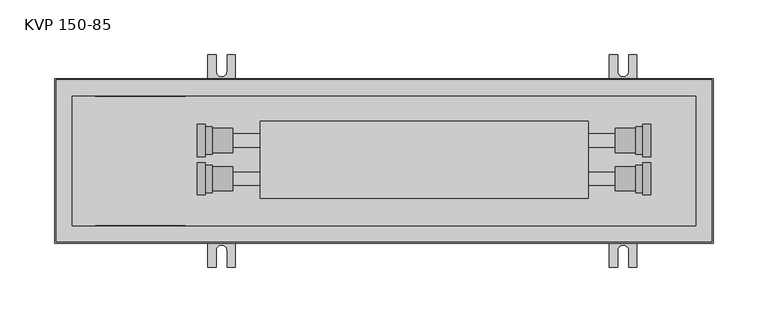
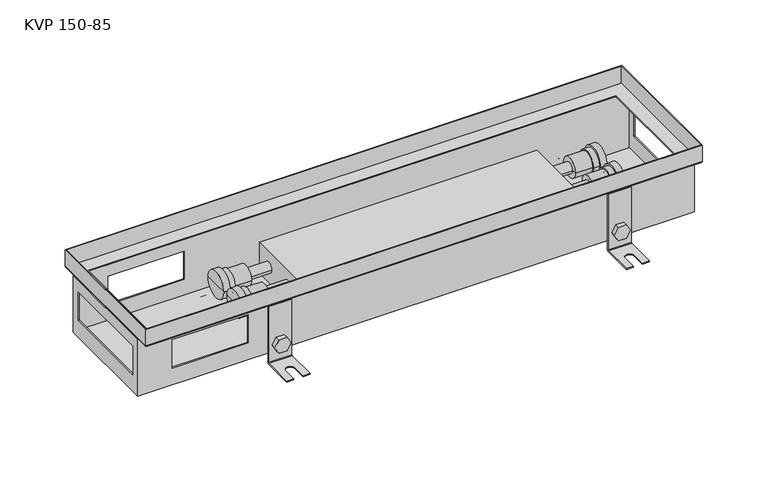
"""IFC4 building model written with IfcOpenShell, lengths in millimetres: proxy geometry, TECHNO_Конвектор встраиваемый_Power_KVP_150_65-85-105 : KVP 150-85."""

from ifc_helpers import new_model, si_unit, point, frame, frame_2d, origin, place, context, project, spatial, polyline, circle_curve, ellipse_curve, trimmed, segment, composite_curve, outline, extrude, faceted_brep, source, transform, mapped, element, save
from ifc_brep_helpers import plane_surface, cylinder_surface, revolved_surface, advanced_brep


def kvp_150_85_47bef37a(model_context):
    return source(origin(), model_context, "Body", "SolidModel", [
        extrude(outline(composite_curve([segment(trimmed(circle_curve(frame_2d((-75.5, 518.0)), 7.5), [point((-75.5, 510.5))], [point((-75.5, 525.5))], False, "CARTESIAN"), True, "CONTINUOUS"), segment(trimmed(circle_curve(frame_2d((-75.5, 518.0)), 7.5), [point((-75.5, 525.5))], [point((-75.5, 510.5))], False, "CARTESIAN"), True, "CONTINUOUS")], self_intersect=False)), frame((0.0, 60.2, 0.0), z_axis=(0.0, 1.0, 0.0), x_axis=(0.0, 0.0, 1.0)), (0.0, 0.0, 1.0), 1.5),
        extrude(outline(polyline([(-75.5, 509.339746), (-83.0, 513.669873), (-83.0, 522.330127), (-75.5, 526.660254), (-68.0, 522.330127), (-68.0, 513.669873), (-75.5, 509.339746)])), frame((0.0, 62.9, 0.0), z_axis=(0.0, 1.0, 0.0), x_axis=(0.0, 0.0, 1.0)), (0.0, 0.0, 1.0), 5.1),
        advanced_brep(
        [(530.5, 62.9, -30.5), (530.5, 61.7, -30.5), (530.5, 61.7, -93.5), (530.5, 63.7, -95.5), (530.5, 96.7, -95.5), (530.5, 96.7, -94.3), (530.5, 63.7, -94.3), (530.5, 62.9, -93.5), (505.5, 62.9, -30.5), (505.5, 62.9, -93.5), (505.5, 63.7, -94.3), (505.5, 96.7, -94.3), (505.5, 96.7, -95.5), (505.5, 63.7, -95.5), (505.5, 61.7, -93.5), (505.5, 61.7, -30.5), (523.0, 96.7, -94.3), (523.0, 81.7, -94.3), (513.0, 81.7, -94.3), (513.0, 96.7, -94.3), (513.0, 96.7, -95.5), (523.0, 96.7, -95.5), (513.0, 81.7, -95.5), (523.0, 81.7, -95.5)],
        [
            (0, 1),
            (1, 2),
            (2, 3, circle_curve(frame((530.5, 63.7, -93.5), z_axis=(1.0, 0.0, 0.0), x_axis=(0.0, 1.0, 0.0)), 2.0)),
            (3, 4),
            (4, 5),
            (5, 6),
            (6, 7, circle_curve(frame((530.5, 63.7, -93.5), z_axis=(-1.0, 0.0, 0.0), x_axis=(0.0, 1.0, 0.0)), 0.8)),
            (7, 0),
            (8, 9),
            (9, 10, circle_curve(frame((505.5, 63.7, -93.5), z_axis=(1.0, 0.0, 0.0), x_axis=(0.0, 1.0, 0.0)), 0.8)),
            (10, 11),
            (11, 12),
            (12, 13),
            (13, 14, circle_curve(frame((505.5, 63.7, -93.5), z_axis=(-1.0, 0.0, 0.0), x_axis=(0.0, 1.0, 0.0)), 2.0)),
            (14, 15),
            (15, 8),
            (7, 9),
            (8, 0),
            (6, 10),
            (5, 16),
            (16, 17),
            (17, 18, circle_curve(frame((518.0, 81.7, -94.3), z_axis=(0.0, 0.0, -1.0), x_axis=(1.0, 0.0, 0.0)), 5.0)),
            (18, 19),
            (19, 11),
            (19, 20),
            (20, 12),
            (4, 21),
            (21, 16),
            (3, 13),
            (20, 22),
            (22, 23, circle_curve(frame((518.0, 81.7, -95.5), z_axis=(0.0, 0.0, 1.0), x_axis=(1.0, 0.0, 0.0)), 5.0)),
            (23, 21),
            (2, 14),
            (1, 15),
            (18, 22),
            (23, 17),
        ],
        [
            plane_surface(frame((530.5, 62.9, -30.5), z_axis=(1.0, 0.0, 0.0), x_axis=(0.0, 0.0, -1.0))),
            plane_surface(frame((505.5, 62.9, -30.5), z_axis=(-1.0, 0.0, 0.0), x_axis=(0.0, 0.0, 1.0))),
            plane_surface(frame((530.5, 62.9, -30.5), z_axis=(0.0, 1.0, 0.0), x_axis=(-1.0, 0.0, 0.0))),
            revolved_surface(polyline([(505.5, 64.5, -93.5), (530.5, 64.5, -93.5)]), (505.5, 63.7, -93.5), (-1.0, 0.0, 0.0)),
            plane_surface(frame((530.5, 63.7, -94.3), z_axis=(0.0, 0.0, 1.0), x_axis=(-1.0, 0.0, 0.0))),
            plane_surface(frame((530.5, 96.7, -94.3), z_axis=(0.0, 1.0, 0.0), x_axis=(-1.0, 0.0, 0.0))),
            plane_surface(frame((530.5, 96.7, -95.5), z_axis=(0.0, 0.0, -1.0), x_axis=(-1.0, 0.0, 0.0))),
            cylinder_surface(frame((505.5, 63.7, -93.5), z_axis=(1.0, 0.0, 0.0), x_axis=(0.0, 1.0, 0.0)), 2.0),
            plane_surface(frame((530.5, 61.7, -93.5), z_axis=(0.0, -1.0, 0.0), x_axis=(-1.0, 0.0, 0.0))),
            plane_surface(frame((530.5, 61.7, -30.5), z_axis=(0.0, 0.0, 1.0), x_axis=(-1.0, 0.0, 0.0))),
            plane_surface(frame((513.0, 81.7, -94.3), z_axis=(1.0, 0.0, 0.0), x_axis=(0.0, 0.0, -1.0))),
            plane_surface(frame((523.0, 96.7, -94.3), z_axis=(-1.0, 0.0, 0.0), x_axis=(0.0, 0.0, -1.0))),
            revolved_surface(polyline([(523.0, 81.7, -94.3), (523.0, 81.7, -95.5)]), (518.0, 81.7, -95.5), (0.0, 0.0, 1.0)),
        ],
        [
            (0, [[1, 2, 3, 4, 5, 6, 7, 8]]),
            (1, [[9, 10, 11, 12, 13, 14, 15, 16]]),
            (2, [[17, -9, 18, -8]]),
            (3, [[19, -10, -17, -7]]),
            (4, [[20, 21, 22, 23, 24, -11, -19, -6]]),
            (5, [[-24, 25, 26, -12]]),
            (5, [[27, 28, -20, -5]]),
            (6, [[29, -13, -26, 30, 31, 32, -27, -4]]),
            (7, [[33, -14, -29, -3]]),
            (8, [[34, -15, -33, -2]]),
            (9, [[-18, -16, -34, -1]]),
            (10, [[-30, -25, -23, 35]]),
            (11, [[-21, -28, -32, 36]]),
            (12, [[-22, -36, -31, -35]]),
        ],
    ),
        extrude(outline(composite_curve([segment(trimmed(circle_curve(frame_2d((-75.5, 518.0)), 7.5), [point((-75.5, 510.5))], [point((-75.5, 525.5))], False, "CARTESIAN"), True, "CONTINUOUS"), segment(trimmed(circle_curve(frame_2d((-75.5, 518.0)), 7.5), [point((-75.5, 525.5))], [point((-75.5, 510.5))], False, "CARTESIAN"), True, "CONTINUOUS")], self_intersect=False)), frame((0.0, -61.7, 0.0), z_axis=(0.0, 1.0, 0.0), x_axis=(0.0, 0.0, 1.0)), (0.0, 0.0, 1.0), 1.5),
        extrude(outline(polyline([(-75.5, 509.339746), (-83.0, 513.669873), (-83.0, 522.330127), (-75.5, 526.660254), (-68.0, 522.330127), (-68.0, 513.669873), (-75.5, 509.339746)])), frame((0.0, -68.0, 0.0), z_axis=(0.0, 1.0, 0.0), x_axis=(0.0, 0.0, 1.0)), (0.0, 0.0, 1.0), 5.1),
        advanced_brep(
        [(530.5, -62.9, -30.5), (530.5, -62.9, -93.5), (530.5, -63.7, -94.3), (530.5, -96.7, -94.3), (530.5, -96.7, -95.5), (530.5, -63.7, -95.5), (530.5, -61.7, -93.5), (530.5, -61.7, -30.5), (505.5, -62.9, -30.5), (505.5, -61.7, -30.5), (505.5, -61.7, -93.5), (505.5, -63.7, -95.5), (505.5, -96.7, -95.5), (505.5, -96.7, -94.3), (505.5, -63.7, -94.3), (505.5, -62.9, -93.5), (513.0, -96.7, -94.3), (513.0, -81.7, -94.3), (523.0, -81.7, -94.3), (523.0, -96.7, -94.3), (523.0, -96.7, -95.5), (513.0, -96.7, -95.5), (523.0, -81.7, -95.5), (513.0, -81.7, -95.5)],
        [
            (0, 1),
            (1, 2, circle_curve(frame((530.5, -63.7, -93.5), z_axis=(-1.0, 0.0, 0.0), x_axis=(0.0, -1.0, 0.0)), 0.8)),
            (2, 3),
            (3, 4),
            (4, 5),
            (5, 6, circle_curve(frame((530.5, -63.7, -93.5), z_axis=(1.0, 0.0, 0.0), x_axis=(0.0, -1.0, 0.0)), 2.0)),
            (6, 7),
            (7, 0),
            (8, 9),
            (9, 10),
            (10, 11, circle_curve(frame((505.5, -63.7, -93.5), z_axis=(-1.0, 0.0, 0.0), x_axis=(0.0, -1.0, 0.0)), 2.0)),
            (11, 12),
            (12, 13),
            (13, 14),
            (14, 15, circle_curve(frame((505.5, -63.7, -93.5), z_axis=(1.0, 0.0, 0.0), x_axis=(0.0, -1.0, 0.0)), 0.8)),
            (15, 8),
            (0, 8),
            (15, 1),
            (14, 2),
            (13, 16),
            (16, 17),
            (17, 18, circle_curve(frame((518.0, -81.7, -94.3), z_axis=(0.0, 0.0, -1.0), x_axis=(1.0, 0.0, 0.0)), 5.0)),
            (18, 19),
            (19, 3),
            (19, 20),
            (20, 4),
            (12, 21),
            (21, 16),
            (20, 22),
            (22, 23, circle_curve(frame((518.0, -81.7, -95.5), z_axis=(0.0, 0.0, 1.0), x_axis=(1.0, 0.0, 0.0)), 5.0)),
            (23, 21),
            (11, 5),
            (10, 6),
            (9, 7),
            (23, 17),
            (18, 22),
        ],
        [
            plane_surface(frame((530.5, -62.9, -30.5), z_axis=(1.0, 0.0, 0.0), x_axis=(0.0, 0.0, -1.0))),
            plane_surface(frame((505.5, -62.9, -30.5), z_axis=(-1.0, 0.0, 0.0), x_axis=(0.0, 0.0, 1.0))),
            plane_surface(frame((530.5, -62.9, -30.5), z_axis=(0.0, -1.0, 0.0), x_axis=(-1.0, 0.0, 0.0))),
            revolved_surface(polyline([(505.5, -64.5, -93.5), (530.5, -64.5, -93.5)]), (505.5, -63.7, -93.5), (-1.0, 0.0, 0.0)),
            plane_surface(frame((530.5, -63.7, -94.3), z_axis=(0.0, 0.0, 1.0), x_axis=(-1.0, 0.0, 0.0))),
            plane_surface(frame((530.5, -96.7, -94.3), z_axis=(0.0, -1.0, 0.0), x_axis=(-1.0, 0.0, 0.0))),
            plane_surface(frame((530.5, -96.7, -95.5), z_axis=(0.0, 0.0, -1.0), x_axis=(-1.0, 0.0, 0.0))),
            cylinder_surface(frame((505.5, -63.7, -93.5), z_axis=(1.0, 0.0, 0.0), x_axis=(0.0, -1.0, 0.0)), 2.0),
            plane_surface(frame((530.5, -61.7, -93.5), z_axis=(0.0, 1.0, 0.0), x_axis=(-1.0, 0.0, 0.0))),
            plane_surface(frame((530.5, -61.7, -30.5), z_axis=(0.0, 0.0, 1.0), x_axis=(-1.0, 0.0, 0.0))),
            plane_surface(frame((513.0, -81.7, -94.3), z_axis=(1.0, 0.0, 0.0), x_axis=(0.0, 0.0, -1.0))),
            plane_surface(frame((523.0, -96.7, -94.3), z_axis=(-1.0, 0.0, 0.0), x_axis=(0.0, 0.0, -1.0))),
            revolved_surface(polyline([(523.0, -81.7, -94.3), (523.0, -81.7, -95.5)]), (518.0, -81.7, -95.5), (0.0, 0.0, 1.0)),
        ],
        [
            (0, [[1, 2, 3, 4, 5, 6, 7, 8]]),
            (1, [[9, 10, 11, 12, 13, 14, 15, 16]]),
            (2, [[-1, 17, -16, 18]]),
            (3, [[-2, -18, -15, 19]]),
            (4, [[-3, -19, -14, 20, 21, 22, 23, 24]]),
            (5, [[-4, -24, 25, 26]]),
            (5, [[-13, 27, 28, -20]]),
            (6, [[-5, -26, 29, 30, 31, -27, -12, 32]]),
            (7, [[-6, -32, -11, 33]]),
            (8, [[-7, -33, -10, 34]]),
            (9, [[-8, -34, -9, -17]]),
            (10, [[35, -21, -28, -31]]),
            (11, [[36, -29, -25, -23]]),
            (12, [[-35, -30, -36, -22]]),
        ],
    ),
        extrude(outline(composite_curve([segment(trimmed(circle_curve(frame_2d((-75.5, 152.0)), 7.5), [point((-75.5, 144.5))], [point((-75.5, 159.5))], False, "CARTESIAN"), True, "CONTINUOUS"), segment(trimmed(circle_curve(frame_2d((-75.5, 152.0)), 7.5), [point((-75.5, 159.5))], [point((-75.5, 144.5))], False, "CARTESIAN"), True, "CONTINUOUS")], self_intersect=False)), frame((0.0, 60.2, 0.0), z_axis=(0.0, 1.0, 0.0), x_axis=(0.0, 0.0, 1.0)), (0.0, 0.0, 1.0), 1.5),
        extrude(outline(polyline([(-75.5, 143.339746), (-83.0, 147.669873), (-83.0, 156.330127), (-75.5, 160.660254), (-68.0, 156.330127), (-68.0, 147.669873), (-75.5, 143.339746)])), frame((0.0, 62.9, 0.0), z_axis=(0.0, 1.0, 0.0), x_axis=(0.0, 0.0, 1.0)), (0.0, 0.0, 1.0), 5.1),
        advanced_brep(
        [(164.5, 62.9, -30.5), (164.5, 61.7, -30.5), (164.5, 61.7, -93.5), (164.5, 63.7, -95.5), (164.5, 96.7, -95.5), (164.5, 96.7, -94.3), (164.5, 63.7, -94.3), (164.5, 62.9, -93.5), (139.5, 62.9, -30.5), (139.5, 62.9, -93.5), (139.5, 63.7, -94.3), (139.5, 96.7, -94.3), (139.5, 96.7, -95.5), (139.5, 63.7, -95.5), (139.5, 61.7, -93.5), (139.5, 61.7, -30.5), (157.0, 96.7, -94.3), (157.0, 81.7, -94.3), (147.0, 81.7, -94.3), (147.0, 96.7, -94.3), (147.0, 96.7, -95.5), (157.0, 96.7, -95.5), (147.0, 81.7, -95.5), (157.0, 81.7, -95.5)],
        [
            (0, 1),
            (1, 2),
            (2, 3, circle_curve(frame((164.5, 63.7, -93.5), z_axis=(1.0, 0.0, 0.0), x_axis=(0.0, 1.0, 0.0)), 2.0)),
            (3, 4),
            (4, 5),
            (5, 6),
            (6, 7, circle_curve(frame((164.5, 63.7, -93.5), z_axis=(-1.0, 0.0, 0.0), x_axis=(0.0, 1.0, 0.0)), 0.8)),
            (7, 0),
            (8, 9),
            (9, 10, circle_curve(frame((139.5, 63.7, -93.5), z_axis=(1.0, 0.0, 0.0), x_axis=(0.0, 1.0, 0.0)), 0.8)),
            (10, 11),
            (11, 12),
            (12, 13),
            (13, 14, circle_curve(frame((139.5, 63.7, -93.5), z_axis=(-1.0, 0.0, 0.0), x_axis=(0.0, 1.0, 0.0)), 2.0)),
            (14, 15),
            (15, 8),
            (7, 9),
            (8, 0),
            (6, 10),
            (5, 16),
            (16, 17),
            (17, 18, circle_curve(frame((152.0, 81.7, -94.3), z_axis=(0.0, 0.0, -1.0), x_axis=(1.0, 0.0, 0.0)), 5.0)),
            (18, 19),
            (19, 11),
            (19, 20),
            (20, 12),
            (4, 21),
            (21, 16),
            (3, 13),
            (20, 22),
            (22, 23, circle_curve(frame((152.0, 81.7, -95.5), z_axis=(0.0, 0.0, 1.0), x_axis=(1.0, 0.0, 0.0)), 5.0)),
            (23, 21),
            (2, 14),
            (1, 15),
            (18, 22),
            (23, 17),
        ],
        [
            plane_surface(frame((164.5, 62.9, -30.5), z_axis=(1.0, 0.0, 0.0), x_axis=(0.0, 0.0, -1.0))),
            plane_surface(frame((139.5, 62.9, -30.5), z_axis=(-1.0, 0.0, 0.0), x_axis=(0.0, 0.0, 1.0))),
            plane_surface(frame((164.5, 62.9, -30.5), z_axis=(0.0, 1.0, 0.0), x_axis=(-1.0, 0.0, 0.0))),
            revolved_surface(polyline([(139.5, 64.5, -93.5), (164.5, 64.5, -93.5)]), (139.5, 63.7, -93.5), (-1.0, 0.0, 0.0)),
            plane_surface(frame((164.5, 63.7, -94.3), z_axis=(0.0, 0.0, 1.0), x_axis=(-1.0, 0.0, 0.0))),
            plane_surface(frame((164.5, 96.7, -94.3), z_axis=(0.0, 1.0, 0.0), x_axis=(-1.0, 0.0, 0.0))),
            plane_surface(frame((164.5, 96.7, -95.5), z_axis=(0.0, 0.0, -1.0), x_axis=(-1.0, 0.0, 0.0))),
            cylinder_surface(frame((139.5, 63.7, -93.5), z_axis=(1.0, 0.0, 0.0), x_axis=(0.0, 1.0, 0.0)), 2.0),
            plane_surface(frame((164.5, 61.7, -93.5), z_axis=(0.0, -1.0, 0.0), x_axis=(-1.0, 0.0, 0.0))),
            plane_surface(frame((164.5, 61.7, -30.5), z_axis=(0.0, 0.0, 1.0), x_axis=(-1.0, 0.0, 0.0))),
            plane_surface(frame((147.0, 81.7, -94.3), z_axis=(1.0, 0.0, 0.0), x_axis=(0.0, 0.0, -1.0))),
            plane_surface(frame((157.0, 96.7, -94.3), z_axis=(-1.0, 0.0, 0.0), x_axis=(0.0, 0.0, -1.0))),
            revolved_surface(polyline([(157.0, 81.7, -94.3), (157.0, 81.7, -95.5)]), (152.0, 81.7, -95.5), (0.0, 0.0, 1.0)),
        ],
        [
            (0, [[1, 2, 3, 4, 5, 6, 7, 8]]),
            (1, [[9, 10, 11, 12, 13, 14, 15, 16]]),
            (2, [[17, -9, 18, -8]]),
            (3, [[19, -10, -17, -7]]),
            (4, [[20, 21, 22, 23, 24, -11, -19, -6]]),
            (5, [[-24, 25, 26, -12]]),
            (5, [[27, 28, -20, -5]]),
            (6, [[29, -13, -26, 30, 31, 32, -27, -4]]),
            (7, [[33, -14, -29, -3]]),
            (8, [[34, -15, -33, -2]]),
            (9, [[-18, -16, -34, -1]]),
            (10, [[-30, -25, -23, 35]]),
            (11, [[-21, -28, -32, 36]]),
            (12, [[-22, -36, -31, -35]]),
        ],
    ),
        extrude(outline(composite_curve([segment(trimmed(circle_curve(frame_2d((-75.5, 152.0)), 7.5), [point((-75.5, 144.5))], [point((-75.5, 159.5))], False, "CARTESIAN"), True, "CONTINUOUS"), segment(trimmed(circle_curve(frame_2d((-75.5, 152.0)), 7.5), [point((-75.5, 159.5))], [point((-75.5, 144.5))], False, "CARTESIAN"), True, "CONTINUOUS")], self_intersect=False)), frame((0.0, -61.7, 0.0), z_axis=(0.0, 1.0, 0.0), x_axis=(0.0, 0.0, 1.0)), (0.0, 0.0, 1.0), 1.5),
        extrude(outline(polyline([(-75.5, 143.339746), (-83.0, 147.669873), (-83.0, 156.330127), (-75.5, 160.660254), (-68.0, 156.330127), (-68.0, 147.669873), (-75.5, 143.339746)])), frame((0.0, -68.0, 0.0), z_axis=(0.0, 1.0, 0.0), x_axis=(0.0, 0.0, 1.0)), (0.0, 0.0, 1.0), 5.1),
        advanced_brep(
        [(164.5, -62.9, -30.5), (164.5, -62.9, -93.5), (164.5, -63.7, -94.3), (164.5, -96.7, -94.3), (164.5, -96.7, -95.5), (164.5, -63.7, -95.5), (164.5, -61.7, -93.5), (164.5, -61.7, -30.5), (139.5, -62.9, -30.5), (139.5, -61.7, -30.5), (139.5, -61.7, -93.5), (139.5, -63.7, -95.5), (139.5, -96.7, -95.5), (139.5, -96.7, -94.3), (139.5, -63.7, -94.3), (139.5, -62.9, -93.5), (147.0, -96.7, -94.3), (147.0, -81.7, -94.3), (157.0, -81.7, -94.3), (157.0, -96.7, -94.3), (157.0, -96.7, -95.5), (147.0, -96.7, -95.5), (157.0, -81.7, -95.5), (147.0, -81.7, -95.5)],
        [
            (0, 1),
            (1, 2, circle_curve(frame((164.5, -63.7, -93.5), z_axis=(-1.0, 0.0, 0.0), x_axis=(0.0, -1.0, 0.0)), 0.8)),
            (2, 3),
            (3, 4),
            (4, 5),
            (5, 6, circle_curve(frame((164.5, -63.7, -93.5), z_axis=(1.0, 0.0, 0.0), x_axis=(0.0, -1.0, 0.0)), 2.0)),
            (6, 7),
            (7, 0),
            (8, 9),
            (9, 10),
            (10, 11, circle_curve(frame((139.5, -63.7, -93.5), z_axis=(-1.0, 0.0, 0.0), x_axis=(0.0, -1.0, 0.0)), 2.0)),
            (11, 12),
            (12, 13),
            (13, 14),
            (14, 15, circle_curve(frame((139.5, -63.7, -93.5), z_axis=(1.0, 0.0, 0.0), x_axis=(0.0, -1.0, 0.0)), 0.8)),
            (15, 8),
            (0, 8),
            (15, 1),
            (14, 2),
            (13, 16),
            (16, 17),
            (17, 18, circle_curve(frame((152.0, -81.7, -94.3), z_axis=(0.0, 0.0, -1.0), x_axis=(1.0, 0.0, 0.0)), 5.0)),
            (18, 19),
            (19, 3),
            (19, 20),
            (20, 4),
            (12, 21),
            (21, 16),
            (20, 22),
            (22, 23, circle_curve(frame((152.0, -81.7, -95.5), z_axis=(0.0, 0.0, 1.0), x_axis=(1.0, 0.0, 0.0)), 5.0)),
            (23, 21),
            (11, 5),
            (10, 6),
            (9, 7),
            (23, 17),
            (18, 22),
        ],
        [
            plane_surface(frame((164.5, -62.9, -30.5), z_axis=(1.0, 0.0, 0.0), x_axis=(0.0, 0.0, -1.0))),
            plane_surface(frame((139.5, -62.9, -30.5), z_axis=(-1.0, 0.0, 0.0), x_axis=(0.0, 0.0, 1.0))),
            plane_surface(frame((164.5, -62.9, -30.5), z_axis=(0.0, -1.0, 0.0), x_axis=(-1.0, 0.0, 0.0))),
            revolved_surface(polyline([(139.5, -64.5, -93.5), (164.5, -64.5, -93.5)]), (139.5, -63.7, -93.5), (-1.0, 0.0, 0.0)),
            plane_surface(frame((164.5, -63.7, -94.3), z_axis=(0.0, 0.0, 1.0), x_axis=(-1.0, 0.0, 0.0))),
            plane_surface(frame((164.5, -96.7, -94.3), z_axis=(0.0, -1.0, 0.0), x_axis=(-1.0, 0.0, 0.0))),
            plane_surface(frame((164.5, -96.7, -95.5), z_axis=(0.0, 0.0, -1.0), x_axis=(-1.0, 0.0, 0.0))),
            cylinder_surface(frame((139.5, -63.7, -93.5), z_axis=(1.0, 0.0, 0.0), x_axis=(0.0, -1.0, 0.0)), 2.0),
            plane_surface(frame((164.5, -61.7, -93.5), z_axis=(0.0, 1.0, 0.0), x_axis=(-1.0, 0.0, 0.0))),
            plane_surface(frame((164.5, -61.7, -30.5), z_axis=(0.0, 0.0, 1.0), x_axis=(-1.0, 0.0, 0.0))),
            plane_surface(frame((147.0, -81.7, -94.3), z_axis=(1.0, 0.0, 0.0), x_axis=(0.0, 0.0, -1.0))),
            plane_surface(frame((157.0, -96.7, -94.3), z_axis=(-1.0, 0.0, 0.0), x_axis=(0.0, 0.0, -1.0))),
            revolved_surface(polyline([(157.0, -81.7, -94.3), (157.0, -81.7, -95.5)]), (152.0, -81.7, -95.5), (0.0, 0.0, 1.0)),
        ],
        [
            (0, [[1, 2, 3, 4, 5, 6, 7, 8]]),
            (1, [[9, 10, 11, 12, 13, 14, 15, 16]]),
            (2, [[-1, 17, -16, 18]]),
            (3, [[-2, -18, -15, 19]]),
            (4, [[-3, -19, -14, 20, 21, 22, 23, 24]]),
            (5, [[-4, -24, 25, 26]]),
            (5, [[-13, 27, 28, -20]]),
            (6, [[-5, -26, 29, 30, 31, -27, -12, 32]]),
            (7, [[-6, -32, -11, 33]]),
            (8, [[-7, -33, -10, 34]]),
            (9, [[-8, -34, -9, -17]]),
            (10, [[35, -21, -28, -31]]),
            (11, [[36, -29, -25, -23]]),
            (12, [[-35, -30, -36, -22]]),
        ],
    ),
        extrude(outline(composite_curve([segment(trimmed(circle_curve(frame_2d((-16.3, -51.1)), 6.0), [point((-22.3, -51.1))], [point((-10.3, -51.1))], False, "CARTESIAN"), True, "CONTINUOUS"), segment(trimmed(circle_curve(frame_2d((-16.3, -51.1)), 6.0), [point((-10.3, -51.1))], [point((-22.3, -51.1))], False, "CARTESIAN"), True, "CONTINUOUS")], self_intersect=False)), frame((162.0, 0.0, 0.0), z_axis=(1.0, 0.0, 0.0), x_axis=(0.0, 1.0, 0.0)), (0.0, 0.0, 1.0), 349.0),
        advanced_brep(
        [(162.0, 7.7, -51.1), (162.0, 29.7, -51.1), (162.0, 18.7, -51.1), (143.5, 7.7, -51.1), (143.5, 29.7, -51.1), (143.5, 6.2, -51.1), (143.5, 31.2, -51.1), (137.0, 6.2, -51.1), (137.0, 31.2, -51.1), (137.0, 4.0, -51.1), (137.0, 33.4, -51.1), (130.0, 4.0, -51.1), (130.0, 33.4, -51.1), (130.0, 18.7, -51.1)],
        [
            (0, 1, circle_curve(frame((162.0, 18.7, -51.1), z_axis=(1.0, 0.0, 0.0), x_axis=(0.0, 1.0, 0.0)), 11.0)),
            (1, 2),
            (2, 0),
            (1, 0, circle_curve(frame((162.0, 18.7, -51.1), z_axis=(1.0, 0.0, 0.0), x_axis=(0.0, 1.0, 0.0)), 11.0)),
            (3, 4, circle_curve(frame((143.5, 18.7, -51.1), z_axis=(1.0, 0.0, 0.0), x_axis=(0.0, 1.0, 0.0)), 11.0)),
            (4, 1),
            (0, 3),
            (4, 3, circle_curve(frame((143.5, 18.7, -51.1), z_axis=(1.0, 0.0, 0.0), x_axis=(0.0, 1.0, 0.0)), 11.0)),
            (5, 6, circle_curve(frame((143.5, 18.7, -51.1), z_axis=(1.0, 0.0, 0.0), x_axis=(0.0, 1.0, 0.0)), 12.5)),
            (6, 4),
            (3, 5),
            (6, 5, circle_curve(frame((143.5, 18.7, -51.1), z_axis=(1.0, 0.0, 0.0), x_axis=(0.0, 1.0, 0.0)), 12.5)),
            (7, 8, circle_curve(frame((137.0, 18.7, -51.1), z_axis=(1.0, 0.0, 0.0), x_axis=(0.0, 1.0, 0.0)), 12.5)),
            (8, 6),
            (5, 7),
            (8, 7, circle_curve(frame((137.0, 18.7, -51.1), z_axis=(1.0, 0.0, 0.0), x_axis=(0.0, 1.0, 0.0)), 12.5)),
            (9, 10, circle_curve(frame((137.0, 18.7, -51.1), z_axis=(1.0, 0.0, 0.0), x_axis=(0.0, 1.0, 0.0)), 14.7)),
            (10, 8),
            (7, 9),
            (10, 9, circle_curve(frame((137.0, 18.7, -51.1), z_axis=(1.0, 0.0, 0.0), x_axis=(0.0, 1.0, 0.0)), 14.7)),
            (11, 12, circle_curve(frame((130.0, 18.7, -51.1), z_axis=(1.0, 0.0, 0.0), x_axis=(0.0, 1.0, 0.0)), 14.7)),
            (12, 10),
            (9, 11),
            (12, 11, circle_curve(frame((130.0, 18.7, -51.1), z_axis=(1.0, 0.0, 0.0), x_axis=(0.0, 1.0, 0.0)), 14.7)),
            (13, 12),
            (11, 13),
        ],
        [
            plane_surface(frame((162.0, 18.7, -51.1), z_axis=(1.0, 0.0, 0.0), x_axis=(0.0, 1.0, 0.0))),
            cylinder_surface(frame((120.0, 18.7, -51.1), z_axis=(-1.0, 0.0, 0.0), x_axis=(0.0, 1.0, 0.0)), 11.0),
            plane_surface(frame((143.5, 18.7, -51.1), z_axis=(1.0, 0.0, 0.0), x_axis=(0.0, 1.0, 0.0))),
            cylinder_surface(frame((120.0, 18.7, -51.1), z_axis=(-1.0, 0.0, 0.0), x_axis=(0.0, 1.0, 0.0)), 12.5),
            plane_surface(frame((137.0, 18.7, -51.1), z_axis=(1.0, 0.0, 0.0), x_axis=(0.0, 1.0, 0.0))),
            cylinder_surface(frame((120.0, 18.7, -51.1), z_axis=(-1.0, 0.0, 0.0), x_axis=(0.0, 1.0, 0.0)), 14.7),
            plane_surface(frame((130.0, 18.7, -51.1), z_axis=(-1.0, 0.0, 0.0), x_axis=(0.0, 1.0, 0.0))),
        ],
        [
            (0, [[1, 2, 3]]),
            (0, [[4, -3, -2]]),
            (1, [[5, 6, -1, 7]]),
            (1, [[8, -7, -4, -6]]),
            (2, [[9, 10, -5, 11]]),
            (2, [[12, -11, -8, -10]]),
            (3, [[13, 14, -9, 15]]),
            (3, [[16, -15, -12, -14]]),
            (4, [[17, 18, -13, 19]]),
            (4, [[20, -19, -16, -18]]),
            (5, [[21, 22, -17, 23]]),
            (5, [[24, -23, -20, -22]]),
            (6, [[25, -21, 26]]),
            (6, [[-26, -24, -25]]),
        ],
    ),
        advanced_brep(
        [(162.0, -27.3, -51.1), (162.0, -5.3, -51.1), (162.0, -16.3, -51.1), (143.5, -27.3, -51.1), (143.5, -5.3, -51.1), (143.5, -28.8, -51.1), (143.5, -3.8, -51.1), (137.0, -28.8, -51.1), (137.0, -3.8, -51.1), (137.0, -31.0, -51.1), (137.0, -1.6, -51.1), (130.0, -31.0, -51.1), (130.0, -1.6, -51.1), (130.0, -16.3, -51.1)],
        [
            (0, 1, circle_curve(frame((162.0, -16.3, -51.1), z_axis=(1.0, 0.0, 0.0), x_axis=(0.0, 1.0, 0.0)), 11.0)),
            (1, 2),
            (2, 0),
            (1, 0, circle_curve(frame((162.0, -16.3, -51.1), z_axis=(1.0, 0.0, 0.0), x_axis=(0.0, 1.0, 0.0)), 11.0)),
            (3, 4, circle_curve(frame((143.5, -16.3, -51.1), z_axis=(1.0, 0.0, 0.0), x_axis=(0.0, 1.0, 0.0)), 11.0)),
            (4, 1),
            (0, 3),
            (4, 3, circle_curve(frame((143.5, -16.3, -51.1), z_axis=(1.0, 0.0, 0.0), x_axis=(0.0, 1.0, 0.0)), 11.0)),
            (5, 6, circle_curve(frame((143.5, -16.3, -51.1), z_axis=(1.0, 0.0, 0.0), x_axis=(0.0, 1.0, 0.0)), 12.5)),
            (6, 4),
            (3, 5),
            (6, 5, circle_curve(frame((143.5, -16.3, -51.1), z_axis=(1.0, 0.0, 0.0), x_axis=(0.0, 1.0, 0.0)), 12.5)),
            (7, 8, circle_curve(frame((137.0, -16.3, -51.1), z_axis=(1.0, 0.0, 0.0), x_axis=(0.0, 1.0, 0.0)), 12.5)),
            (8, 6),
            (5, 7),
            (8, 7, circle_curve(frame((137.0, -16.3, -51.1), z_axis=(1.0, 0.0, 0.0), x_axis=(0.0, 1.0, 0.0)), 12.5)),
            (9, 10, circle_curve(frame((137.0, -16.3, -51.1), z_axis=(1.0, 0.0, 0.0), x_axis=(0.0, 1.0, 0.0)), 14.7)),
            (10, 8),
            (7, 9),
            (10, 9, circle_curve(frame((137.0, -16.3, -51.1), z_axis=(1.0, 0.0, 0.0), x_axis=(0.0, 1.0, 0.0)), 14.7)),
            (11, 12, circle_curve(frame((130.0, -16.3, -51.1), z_axis=(1.0, 0.0, 0.0), x_axis=(0.0, 1.0, 0.0)), 14.7)),
            (12, 10),
            (9, 11),
            (12, 11, circle_curve(frame((130.0, -16.3, -51.1), z_axis=(1.0, 0.0, 0.0), x_axis=(0.0, 1.0, 0.0)), 14.7)),
            (13, 12),
            (11, 13),
        ],
        [
            plane_surface(frame((162.0, -16.3, -51.1), z_axis=(1.0, 0.0, 0.0), x_axis=(0.0, 1.0, 0.0))),
            cylinder_surface(frame((120.0, -16.3, -51.1), z_axis=(-1.0, 0.0, 0.0), x_axis=(0.0, 1.0, 0.0)), 11.0),
            plane_surface(frame((143.5, -16.3, -51.1), z_axis=(1.0, 0.0, 0.0), x_axis=(0.0, 1.0, 0.0))),
            cylinder_surface(frame((120.0, -16.3, -51.1), z_axis=(-1.0, 0.0, 0.0), x_axis=(0.0, 1.0, 0.0)), 12.5),
            plane_surface(frame((137.0, -16.3, -51.1), z_axis=(1.0, 0.0, 0.0), x_axis=(0.0, 1.0, 0.0))),
            cylinder_surface(frame((120.0, -16.3, -51.1), z_axis=(-1.0, 0.0, 0.0), x_axis=(0.0, 1.0, 0.0)), 14.7),
            plane_surface(frame((130.0, -16.3, -51.1), z_axis=(-1.0, 0.0, 0.0), x_axis=(0.0, 1.0, 0.0))),
        ],
        [
            (0, [[1, 2, 3]]),
            (0, [[4, -3, -2]]),
            (1, [[5, 6, -1, 7]]),
            (1, [[8, -7, -4, -6]]),
            (2, [[9, 10, -5, 11]]),
            (2, [[12, -11, -8, -10]]),
            (3, [[13, 14, -9, 15]]),
            (3, [[16, -15, -12, -14]]),
            (4, [[17, 18, -13, 19]]),
            (4, [[20, -19, -16, -18]]),
            (5, [[21, 22, -17, 23]]),
            (5, [[24, -23, -20, -22]]),
            (6, [[25, -21, 26]]),
            (6, [[-26, -24, -25]]),
        ],
    ),
        extrude(outline(polyline([(486.0, 36.2), (486.0, -33.8), (187.0, -33.8), (187.0, 36.2), (486.0, 36.2)])), frame((0.0, 0.0, -68.6), z_axis=(0.0, 0.0, 1.0), x_axis=(1.0, 0.0, 0.0)), (0.0, 0.0, 1.0), 35.0),
        advanced_brep(
        [(511.0, 18.7, -51.1), (511.0, 29.7, -51.1), (511.0, 7.7, -51.1), (529.5, 29.7, -51.1), (529.5, 7.7, -51.1), (529.5, 31.2, -51.1), (529.5, 6.2, -51.1), (536.0, 31.2, -51.1), (536.0, 6.2, -51.1), (536.0, 33.4, -51.1), (536.0, 4.0, -51.1), (543.0, 33.4, -51.1), (543.0, 4.0, -51.1), (543.0, 18.7, -51.1)],
        [
            (0, 1),
            (1, 2, circle_curve(frame((511.0, 18.7, -51.1), z_axis=(-1.0, 0.0, 0.0), x_axis=(0.0, 1.0, 0.0)), 11.0)),
            (2, 0),
            (2, 1, circle_curve(frame((511.0, 18.7, -51.1), z_axis=(-1.0, 0.0, 0.0), x_axis=(0.0, 1.0, 0.0)), 11.0)),
            (1, 3),
            (3, 4, circle_curve(frame((529.5, 18.7, -51.1), z_axis=(-1.0, 0.0, 0.0), x_axis=(0.0, 1.0, 0.0)), 11.0)),
            (4, 2),
            (4, 3, circle_curve(frame((529.5, 18.7, -51.1), z_axis=(-1.0, 0.0, 0.0), x_axis=(0.0, 1.0, 0.0)), 11.0)),
            (3, 5),
            (5, 6, circle_curve(frame((529.5, 18.7, -51.1), z_axis=(-1.0, 0.0, 0.0), x_axis=(0.0, 1.0, 0.0)), 12.5)),
            (6, 4),
            (6, 5, circle_curve(frame((529.5, 18.7, -51.1), z_axis=(-1.0, 0.0, 0.0), x_axis=(0.0, 1.0, 0.0)), 12.5)),
            (5, 7),
            (7, 8, circle_curve(frame((536.0, 18.7, -51.1), z_axis=(-1.0, 0.0, 0.0), x_axis=(0.0, 1.0, 0.0)), 12.5)),
            (8, 6),
            (8, 7, circle_curve(frame((536.0, 18.7, -51.1), z_axis=(-1.0, 0.0, 0.0), x_axis=(0.0, 1.0, 0.0)), 12.5)),
            (7, 9),
            (9, 10, circle_curve(frame((536.0, 18.7, -51.1), z_axis=(-1.0, 0.0, 0.0), x_axis=(0.0, 1.0, 0.0)), 14.7)),
            (10, 8),
            (10, 9, circle_curve(frame((536.0, 18.7, -51.1), z_axis=(-1.0, 0.0, 0.0), x_axis=(0.0, 1.0, 0.0)), 14.7)),
            (9, 11),
            (11, 12, circle_curve(frame((543.0, 18.7, -51.1), z_axis=(-1.0, 0.0, 0.0), x_axis=(0.0, 1.0, 0.0)), 14.7)),
            (12, 10),
            (12, 11, circle_curve(frame((543.0, 18.7, -51.1), z_axis=(-1.0, 0.0, 0.0), x_axis=(0.0, 1.0, 0.0)), 14.7)),
            (11, 13),
            (13, 12),
        ],
        [
            plane_surface(frame((511.0, 18.7, -51.1), z_axis=(-1.0, 0.0, 0.0), x_axis=(0.0, 1.0, 0.0))),
            cylinder_surface(frame((36.0, 18.7, -51.1), z_axis=(-1.0, 0.0, 0.0), x_axis=(0.0, 1.0, 0.0)), 11.0),
            plane_surface(frame((529.5, 18.7, -51.1), z_axis=(-1.0, 0.0, 0.0), x_axis=(0.0, 1.0, 0.0))),
            cylinder_surface(frame((36.0, 18.7, -51.1), z_axis=(-1.0, 0.0, 0.0), x_axis=(0.0, 1.0, 0.0)), 12.5),
            plane_surface(frame((536.0, 18.7, -51.1), z_axis=(-1.0, 0.0, 0.0), x_axis=(0.0, 1.0, 0.0))),
            cylinder_surface(frame((36.0, 18.7, -51.1), z_axis=(-1.0, 0.0, 0.0), x_axis=(0.0, 1.0, 0.0)), 14.7),
            plane_surface(frame((543.0, 18.7, -51.1), z_axis=(1.0, 0.0, 0.0), x_axis=(0.0, 1.0, 0.0))),
        ],
        [
            (0, [[1, 2, 3]]),
            (0, [[-3, 4, -1]]),
            (1, [[-2, 5, 6, 7]]),
            (1, [[-4, -7, 8, -5]]),
            (2, [[-6, 9, 10, 11]]),
            (2, [[-8, -11, 12, -9]]),
            (3, [[-10, 13, 14, 15]]),
            (3, [[-12, -15, 16, -13]]),
            (4, [[-14, 17, 18, 19]]),
            (4, [[-16, -19, 20, -17]]),
            (5, [[-18, 21, 22, 23]]),
            (5, [[-20, -23, 24, -21]]),
            (6, [[-22, 25, 26]]),
            (6, [[-24, -26, -25]]),
        ],
    ),
        advanced_brep(
        [(511.0, -16.3, -51.1), (511.0, -5.3, -51.1), (511.0, -27.3, -51.1), (529.5, -5.3, -51.1), (529.5, -27.3, -51.1), (529.5, -3.8, -51.1), (529.5, -28.8, -51.1), (536.0, -3.8, -51.1), (536.0, -28.8, -51.1), (536.0, -1.6, -51.1), (536.0, -31.0, -51.1), (543.0, -1.6, -51.1), (543.0, -31.0, -51.1), (543.0, -16.3, -51.1)],
        [
            (0, 1),
            (1, 2, circle_curve(frame((511.0, -16.3, -51.1), z_axis=(-1.0, 0.0, 0.0), x_axis=(0.0, 1.0, 0.0)), 11.0)),
            (2, 0),
            (2, 1, circle_curve(frame((511.0, -16.3, -51.1), z_axis=(-1.0, 0.0, 0.0), x_axis=(0.0, 1.0, 0.0)), 11.0)),
            (1, 3),
            (3, 4, circle_curve(frame((529.5, -16.3, -51.1), z_axis=(-1.0, 0.0, 0.0), x_axis=(0.0, 1.0, 0.0)), 11.0)),
            (4, 2),
            (4, 3, circle_curve(frame((529.5, -16.3, -51.1), z_axis=(-1.0, 0.0, 0.0), x_axis=(0.0, 1.0, 0.0)), 11.0)),
            (3, 5),
            (5, 6, circle_curve(frame((529.5, -16.3, -51.1), z_axis=(-1.0, 0.0, 0.0), x_axis=(0.0, 1.0, 0.0)), 12.5)),
            (6, 4),
            (6, 5, circle_curve(frame((529.5, -16.3, -51.1), z_axis=(-1.0, 0.0, 0.0), x_axis=(0.0, 1.0, 0.0)), 12.5)),
            (5, 7),
            (7, 8, circle_curve(frame((536.0, -16.3, -51.1), z_axis=(-1.0, 0.0, 0.0), x_axis=(0.0, 1.0, 0.0)), 12.5)),
            (8, 6),
            (8, 7, circle_curve(frame((536.0, -16.3, -51.1), z_axis=(-1.0, 0.0, 0.0), x_axis=(0.0, 1.0, 0.0)), 12.5)),
            (7, 9),
            (9, 10, circle_curve(frame((536.0, -16.3, -51.1), z_axis=(-1.0, 0.0, 0.0), x_axis=(0.0, 1.0, 0.0)), 14.7)),
            (10, 8),
            (10, 9, circle_curve(frame((536.0, -16.3, -51.1), z_axis=(-1.0, 0.0, 0.0), x_axis=(0.0, 1.0, 0.0)), 14.7)),
            (9, 11),
            (11, 12, circle_curve(frame((543.0, -16.3, -51.1), z_axis=(-1.0, 0.0, 0.0), x_axis=(0.0, 1.0, 0.0)), 14.7)),
            (12, 10),
            (12, 11, circle_curve(frame((543.0, -16.3, -51.1), z_axis=(-1.0, 0.0, 0.0), x_axis=(0.0, 1.0, 0.0)), 14.7)),
            (11, 13),
            (13, 12),
        ],
        [
            plane_surface(frame((511.0, -16.3, -51.1), z_axis=(-1.0, 0.0, 0.0), x_axis=(0.0, 1.0, 0.0))),
            cylinder_surface(frame((36.0, -16.3, -51.1), z_axis=(-1.0, 0.0, 0.0), x_axis=(0.0, 1.0, 0.0)), 11.0),
            plane_surface(frame((529.5, -16.3, -51.1), z_axis=(-1.0, 0.0, 0.0), x_axis=(0.0, 1.0, 0.0))),
            cylinder_surface(frame((36.0, -16.3, -51.1), z_axis=(-1.0, 0.0, 0.0), x_axis=(0.0, 1.0, 0.0)), 12.5),
            plane_surface(frame((536.0, -16.3, -51.1), z_axis=(-1.0, 0.0, 0.0), x_axis=(0.0, 1.0, 0.0))),
            cylinder_surface(frame((36.0, -16.3, -51.1), z_axis=(-1.0, 0.0, 0.0), x_axis=(0.0, 1.0, 0.0)), 14.7),
            plane_surface(frame((543.0, -16.3, -51.1), z_axis=(1.0, 0.0, 0.0), x_axis=(0.0, 1.0, 0.0))),
        ],
        [
            (0, [[1, 2, 3]]),
            (0, [[-3, 4, -1]]),
            (1, [[-2, 5, 6, 7]]),
            (1, [[-4, -7, 8, -5]]),
            (2, [[-6, 9, 10, 11]]),
            (2, [[-8, -11, 12, -9]]),
            (3, [[-10, 13, 14, 15]]),
            (3, [[-12, -15, 16, -13]]),
            (4, [[-14, 17, 18, 19]]),
            (4, [[-16, -19, 20, -17]]),
            (5, [[-18, 21, 22, 23]]),
            (5, [[-20, -23, 24, -21]]),
            (6, [[-22, 25, 26]]),
            (6, [[-24, -26, -25]]),
        ],
    ),
        extrude(outline(composite_curve([segment(trimmed(circle_curve(frame_2d((18.7, -51.1)), 6.0), [point((12.7, -51.1))], [point((24.7, -51.1))], False, "CARTESIAN"), True, "CONTINUOUS"), segment(trimmed(circle_curve(frame_2d((18.7, -51.1)), 6.0), [point((24.7, -51.1))], [point((12.7, -51.1))], False, "CARTESIAN"), True, "CONTINUOUS")], self_intersect=False)), frame((162.0, 0.0, 0.0), z_axis=(1.0, 0.0, 0.0), x_axis=(0.0, 1.0, 0.0)), (0.0, 0.0, 1.0), 349.0),
        faceted_brep([(598.8, -59.0, -83.8), (598.8, 59.0, -83.8), (1.2, 59.0, -83.8), (1.2, -59.0, -83.8), (0.0, -60.2, -85.0), (0.0, 60.2, -85.0), (600.0, 60.2, -85.0), (600.0, -60.2, -85.0), (600.0, -60.2, -20.5), (0.0, -60.2, -20.5), (37.0, -60.2, -33.8), (119.0, -60.2, -33.8), (119.0, -60.2, -65.8), (37.0, -60.2, -65.8), (600.0, 60.2, -20.5), (600.0, 51.0, -33.8), (600.0, 51.0, -65.8), (600.0, -51.0, -65.8), (600.0, -51.0, -33.8), (0.0, 60.2, -20.5), (119.0, 60.2, -33.8), (37.0, 60.2, -33.8), (37.0, 60.2, -65.8), (119.0, 60.2, -65.8), (0.0, 51.0, -65.8), (0.0, 51.0, -33.8), (0.0, -51.0, -33.8), (0.0, -51.0, -65.8), (598.8, -59.0, -20.5), (598.8, 59.0, -20.5), (598.8, 51.0, -65.8), (598.8, 51.0, -33.8), (598.8, -51.0, -33.8), (598.8, -51.0, -65.8), (1.2, -59.0, -20.5), (119.0, -59.0, -33.8), (37.0, -59.0, -33.8), (37.0, -59.0, -65.8), (119.0, -59.0, -65.8), (1.2, 59.0, -20.5), (1.2, 51.0, -33.8), (1.2, 51.0, -65.8), (1.2, -51.0, -65.8), (1.2, -51.0, -33.8), (37.0, 59.0, -33.8), (119.0, 59.0, -33.8), (119.0, 59.0, -65.8), (37.0, 59.0, -65.8)], [[[0, 1, 2, 3]], [[4, 5, 6, 7]], [[4, 7, 8, 9], [10, 11, 12, 13]], [[7, 6, 14, 8], [15, 16, 17, 18]], [[6, 5, 19, 14], [20, 21, 22, 23]], [[5, 4, 9, 19], [24, 25, 26, 27]], [[28, 29, 1, 0], [30, 31, 32, 33]], [[34, 28, 0, 3], [35, 36, 37, 38]], [[39, 34, 3, 2], [40, 41, 42, 43]], [[29, 39, 2, 1], [44, 45, 46, 47]], [[8, 14, 19, 9], [29, 28, 34, 39]], [[35, 11, 10, 36]], [[20, 45, 44, 21]], [[36, 10, 13, 37]], [[21, 44, 47, 22]], [[37, 13, 12, 38]], [[22, 47, 46, 23]], [[11, 35, 38, 12]], [[45, 20, 23, 46]], [[15, 31, 30, 16]], [[31, 15, 18, 32]], [[32, 18, 17, 33]], [[16, 30, 33, 17]], [[24, 41, 40, 25]], [[25, 40, 43, 26]], [[26, 43, 42, 27]], [[41, 24, 27, 42]]]),
        advanced_brep(
        [(584.0, 59.0, -19.3), (584.0, 59.0, -20.5), (584.0, -59.0, -20.5), (584.0, -59.0, -19.3), (598.8, 73.8, 0.0), (598.8, 73.8, -19.3), (598.8, -73.8, -19.3), (598.8, -73.8, 0.0), (600.0, 75.0, -18.5), (600.0, 75.0, 0.0), (600.0, -75.0, 0.0), (600.0, -75.0, -18.5), (16.0, -59.0, -20.5), (16.0, -59.0, -19.3), (1.2, -73.8, -19.3), (1.2, -73.8, 0.0), (0.0, -75.0, 0.0), (0.0, -75.0, -18.5), (16.0, 59.0, -20.5), (16.0, 59.0, -19.3), (1.2, 73.8, -19.3), (1.2, 73.8, 0.0), (0.0, 75.0, 0.0), (0.0, 75.0, -18.5), (598.0, -73.0, -20.5), (2.0, -73.0, -20.5), (2.0, 73.0, -20.5), (598.0, 73.0, -20.5)],
        [
            (0, 1),
            (1, 2),
            (2, 3),
            (3, 0),
            (4, 5),
            (5, 6),
            (6, 7),
            (7, 4),
            (8, 9),
            (9, 10),
            (10, 11),
            (11, 8),
            (2, 12),
            (12, 13),
            (13, 3),
            (6, 14),
            (14, 15),
            (15, 7),
            (10, 16),
            (16, 17),
            (17, 11),
            (12, 18),
            (18, 19),
            (19, 13),
            (14, 20),
            (20, 21),
            (21, 15),
            (16, 22),
            (22, 23),
            (23, 17),
            (24, 25),
            (25, 26),
            (26, 27),
            (27, 24),
            (1, 18),
            (0, 19),
            (5, 20),
            (4, 21),
            (9, 22),
            (8, 23),
            (27, 8, ellipse_curve(frame((598.0, 73.0, -18.5), z_axis=(0.7071067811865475, -0.7071067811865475, 0.0), x_axis=(0.7071067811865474, 0.7071067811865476, 0.0)), 2.8284271, 2.0)),
            (11, 24, ellipse_curve(frame((598.0, -73.0, -18.5), z_axis=(0.7071067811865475, 0.7071067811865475, 0.0), x_axis=(-0.7071067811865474, 0.7071067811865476, 0.0)), 2.8284271, 2.0)),
            (17, 25, ellipse_curve(frame((2.0, -73.0, -18.5), z_axis=(0.7071067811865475, -0.7071067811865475, 0.0), x_axis=(0.7071067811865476, 0.7071067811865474, 0.0)), 2.8284271, 2.0)),
            (23, 26, ellipse_curve(frame((2.0, 73.0, -18.5), z_axis=(-0.7071067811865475, -0.7071067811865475, 0.0), x_axis=(0.7071067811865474, -0.7071067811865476, 0.0)), 2.8284271, 2.0)),
        ],
        [
            plane_surface(frame((584.0, 59.0, -20.5), z_axis=(-1.0, 0.0, 0.0), x_axis=(0.0, -1.0, 0.0))),
            plane_surface(frame((598.8, 73.8, -19.3), z_axis=(-1.0, 0.0, 0.0), x_axis=(0.0, -1.0, 0.0))),
            plane_surface(frame((600.0, 75.0, 0.0), z_axis=(1.0, 0.0, 0.0), x_axis=(0.0, -1.0, 0.0))),
            plane_surface(frame((584.0, -59.0, -20.5), z_axis=(0.0, 1.0, 0.0), x_axis=(-1.0, 0.0, 0.0))),
            plane_surface(frame((598.8, -73.8, -19.3), z_axis=(0.0, 1.0, 0.0), x_axis=(-1.0, 0.0, 0.0))),
            plane_surface(frame((600.0, -75.0, 0.0), z_axis=(0.0, -1.0, 0.0), x_axis=(-1.0, 0.0, 0.0))),
            plane_surface(frame((16.0, -59.0, -20.5), z_axis=(1.0, 0.0, 0.0), x_axis=(0.0, 1.0, 0.0))),
            plane_surface(frame((1.2, -73.8, -19.3), z_axis=(1.0, 0.0, 0.0), x_axis=(0.0, 1.0, 0.0))),
            plane_surface(frame((0.0, -75.0, 0.0), z_axis=(-1.0, 0.0, 0.0), x_axis=(0.0, 1.0, 0.0))),
            plane_surface(frame((2.0, 73.0, -20.5), z_axis=(0.0, 0.0, -1.0), x_axis=(1.0, 0.0, 0.0))),
            plane_surface(frame((16.0, 59.0, -20.5), z_axis=(0.0, -1.0, 0.0), x_axis=(1.0, 0.0, 0.0))),
            plane_surface(frame((16.0, 59.0, -19.3), z_axis=(0.0, 0.0, 1.0), x_axis=(1.0, 0.0, 0.0))),
            plane_surface(frame((1.2, 73.8, -19.3), z_axis=(0.0, -1.0, 0.0), x_axis=(1.0, 0.0, 0.0))),
            plane_surface(frame((1.2, 73.8, 0.0), z_axis=(0.0, 0.0, 1.0), x_axis=(1.0, 0.0, 0.0))),
            plane_surface(frame((0.0, 75.0, 0.0), z_axis=(0.0, 1.0, 0.0), x_axis=(1.0, 0.0, 0.0))),
            cylinder_surface(frame((598.0, 75.0, -18.5), z_axis=(0.0, 1.0, 0.0), x_axis=(1.0, 0.0, 0.0)), 2.0),
            cylinder_surface(frame((600.0, -73.0, -18.5), z_axis=(1.0, 0.0, 0.0), x_axis=(0.0, -1.0, 0.0)), 2.0),
            cylinder_surface(frame((2.0, -75.0, -18.5), z_axis=(0.0, -1.0, 0.0), x_axis=(-1.0, 0.0, 0.0)), 2.0),
            cylinder_surface(frame((0.0, 73.0, -18.5), z_axis=(-1.0, 0.0, 0.0), x_axis=(0.0, 1.0, 0.0)), 2.0),
        ],
        [
            (0, [[1, 2, 3, 4]]),
            (1, [[5, 6, 7, 8]]),
            (2, [[9, 10, 11, 12]]),
            (3, [[-3, 13, 14, 15]]),
            (4, [[-7, 16, 17, 18]]),
            (5, [[-11, 19, 20, 21]]),
            (6, [[-14, 22, 23, 24]]),
            (7, [[-17, 25, 26, 27]]),
            (8, [[-20, 28, 29, 30]]),
            (9, [[31, 32, 33, 34], [35, -22, -13, -2]]),
            (10, [[-23, -35, -1, 36]]),
            (11, [[37, -25, -16, -6], [-15, -24, -36, -4]]),
            (12, [[-26, -37, -5, 38]]),
            (13, [[39, -28, -19, -10], [-18, -27, -38, -8]]),
            (14, [[-29, -39, -9, 40]]),
            (15, [[41, -12, 42, -34]]),
            (16, [[-42, -21, 43, -31]]),
            (17, [[-43, -30, 44, -32]]),
            (18, [[-44, -40, -41, -33]]),
        ],
    ),
    ])


if __name__ == "__main__":
    model = new_model("IFC4")
    model_context = context("Model", 3, world=origin())
    ifc_project = project(units=[si_unit("LENGTHUNIT", "METRE", prefix="MILLI")], contexts=[model_context])
    site = spatial("IfcSite", under=ifc_project)
    building = spatial("IfcBuilding", under=site)
    placement = place(None, origin())
    kvp_150_85_shape = kvp_150_85_47bef37a(model_context)
    element("IfcBuildingElementProxy", 1, Name="TECHNO_Конвектор встраиваемый_Power_KVP_150_65-85-105 : KVP 150-85", ObjectType="TECHNO_Конвектор встраиваемый_Power_KVP_150_65-85-105 : KVP 150-85", at=placement, inside=building, context=model_context, shape_type="MappedRepresentation", body=[
        mapped(kvp_150_85_shape, transform((0.0, 0.0, 0.0), x_axis=(1.0, 0.0, 0.0), y_axis=(0.0, 1.0, 0.0), z_axis=(0.0, 0.0, 1.0))),
    ])
    save(model, "model.ifc")
